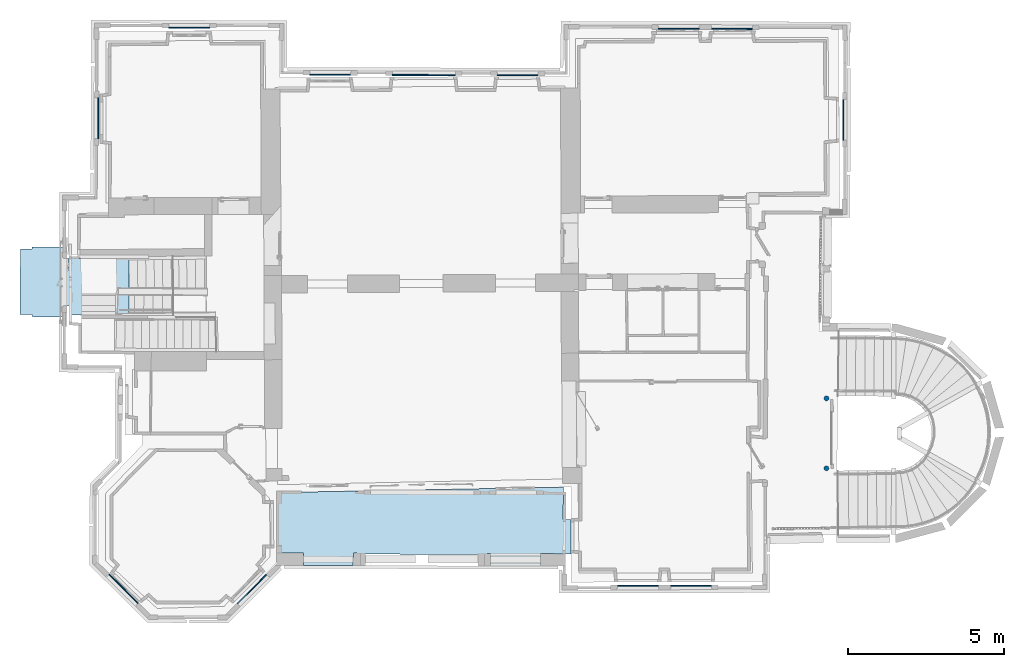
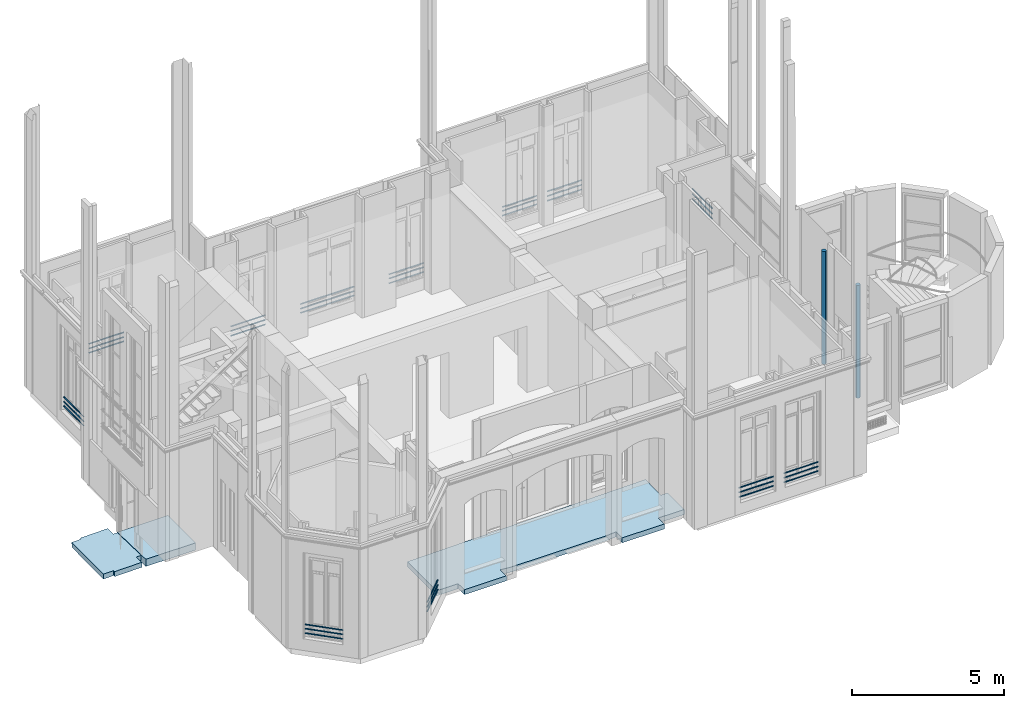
# One storey, part 1 of 97: 36 beams, 3 slabs, 2 columns.
"""IFC2X3 building model written with IfcOpenShell, lengths in centimetres."""

from ifc_helpers import new_model, entity, si_unit, converted_unit, direction, frame, origin, origin_with_axes, origin_2d_with_axis, place, context, subcontext, project, spatial, polyline, circle, outline, extrude, source, transform, mapped, material, layer, layer_set, layer_usage, type_object, element, save


model = new_model("IFC2X3")

# Units and contexts
model_context = context("Model", 3, precision=0.0001, world=origin(), true_north=direction((0.225632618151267, 0.974212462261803, 0.0)))
body_context = subcontext(model_context, "Body", "Model", "MODEL_VIEW")
ifc_project = project(units=[si_unit("LENGTHUNIT", "METRE", prefix="CENTI"), si_unit("AREAUNIT", "SQUARE_METRE", prefix="CENTI"), si_unit("VOLUMEUNIT", "CUBIC_METRE", prefix="CENTI"), converted_unit("PLANEANGLEUNIT", "DEGREE", entity("IfcRatioMeasure", 0.0174532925), si_unit("PLANEANGLEUNIT", "RADIAN"), dimensions=[0, 0, 0, 0, 0, 0, 0])], contexts=[model_context])

# Site, building, storey
site_placement = place(None, origin_with_axes())
site = spatial("IfcSite", under=ifc_project, at=site_placement, Name="Default Site", CompositionType="ELEMENT")
building_placement = place(site_placement, origin_with_axes())
building = spatial("IfcBuilding", under=site, at=building_placement, Name="Default Building", CompositionType="ELEMENT")
storey_placement = place(building_placement, origin_with_axes())
storey = spatial("IfcBuildingStorey", under=building, at=storey_placement, Name="Rez-de-chaussée", CompositionType="ELEMENT", Elevation=0.0)

# Columns
ifc_material_1 = material(Name="Aluminium mat")
column_type = type_object("IfcColumnType", Name="RND 160", PredefinedType="USERDEFINED", material=ifc_material_1)
shared_shape_1 = source(origin_with_axes(), body_context, "Body", "SweptSolid", [
    extrude(circle(Radius=8.0, at=origin_2d_with_axis()), origin_with_axes(), (0.0, 0.0, 1.0), 100.0),
])
for number, where, z_axis, x_axis, name in (
    (1, (1084.38223183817, -660.503939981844, 0.0), (0.0, 0.0, 1.0), (1.0, 0.0, 0.0), "Poteau Acier 705440"),
    (2, (1084.89941999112, -436.680991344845, 0.0), (0.0, 0.0, 1.0), (1.0, 0.0, 0.0), "Poteau Acier 705443"),
):
    element("IfcColumn", number, at=place(storey_placement, frame(where, z_axis=z_axis, x_axis=x_axis)), inside=storey, type_object=column_type, material=ifc_material_1, Name=name, ObjectType="column", context=body_context, shape_type="MappedRepresentation", body=[
        mapped(shared_shape_1, transform((0.0, 0.0, 0.0), x_axis=(1.0, 0.0, 0.0), y_axis=(0.0, 1.0, 0.0), z_axis=(0.0, 0.0, 1.0), scale=1.0, scale2=1.0, scale3=4.52795358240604, uniform=False)),
    ])

# Beams
beam_type = type_object("IfcBeamType", Name="RND 35", PredefinedType="NOTDEFINED", material=ifc_material_1)
shared_shape_2 = source(origin_with_axes(), body_context, "Body", "SweptSolid", [
    extrude(circle(Radius=1.75, at=origin_2d_with_axis()), origin_with_axes(), (0.0, 0.0, 1.0), 100.0),
])
beam_1_placement = place(storey_placement, frame((1138.22197172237, 390.217607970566, 100.795358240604), z_axis=(-6.12323399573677e-17, -1.0, 0.0), x_axis=(1.0, -6.12323399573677e-17, -2.44929359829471e-16)))
element("IfcBeam", 3, at=beam_1_placement, inside=storey, type_object=beam_type, material=ifc_material_1, Name="Poutre en Acier 1550562", ObjectType="beam", context=body_context, shape_type="MappedRepresentation", body=[
    mapped(shared_shape_2, transform((0.0, 0.0, 0.0), x_axis=(1.0, 0.0, 0.0), y_axis=(0.0, 1.0, 0.0), z_axis=(0.0, -2.1091800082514e-48, -1.0), scale=1.0, scale2=1.0, scale3=1.2976185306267, uniform=False)),
])
beam_2_placement = place(storey_placement, frame((1138.15722398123, 390.217824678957, 79.795358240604), z_axis=(-0.000498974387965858, -0.999999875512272, 0.0), x_axis=(0.999999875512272, -0.000498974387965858, -2.44929359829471e-16)))
element("IfcBeam", 4, at=beam_2_placement, inside=storey, type_object=beam_type, material=ifc_material_1, Name="Poutre en Acier 1550687", ObjectType="beam", context=body_context, shape_type="MappedRepresentation", body=[
    mapped(shared_shape_2, transform((0.0, -1.11022302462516e-14, 0.0), x_axis=(1.0, 4.93038065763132e-32, 0.0), y_axis=(0.0, 1.0, 0.0), z_axis=(8.35533573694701e-20, 1.85525722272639e-35, -1.0), scale=1.0, scale2=1.0, scale3=1.29761652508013, uniform=False)),
])
beam_3_placement = place(storey_placement, frame((-1117.57159173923, -1090.93596104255, 59.795358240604), z_axis=(0.708665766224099, -0.705544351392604, -2.46519032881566e-32), x_axis=(0.705544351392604, 0.708665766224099, -2.44929359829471e-16)))
element("IfcBeam", 5, at=beam_3_placement, inside=storey, type_object=beam_type, material=ifc_material_1, Name="Poutre en Acier 1660656", ObjectType="beam", context=body_context, shape_type="MappedRepresentation", body=[
    mapped(shared_shape_2, transform((-1.75000000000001, 1.74999999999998, 0.0), x_axis=(1.0, 4.93038065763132e-32, 6.03797489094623e-48), y_axis=(0.0, 1.0, 0.0), z_axis=(-6.03797489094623e-48, 5.72669407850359e-33, -1.0), scale=1.0, scale2=1.0, scale3=1.30259607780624, uniform=False)),
])
beam_4_placement = place(storey_placement, frame((-1117.57111937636, -1090.93643132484, 77.795358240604), z_axis=(0.708665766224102, -0.705544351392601, 2.46519032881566e-32), x_axis=(0.705544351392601, 0.708665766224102, -2.44929359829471e-16)))
element("IfcBeam", 6, at=beam_4_placement, inside=storey, type_object=beam_type, material=ifc_material_1, Name="Poutre en Acier 1660529", ObjectType="beam", context=body_context, shape_type="MappedRepresentation", body=[
    mapped(shared_shape_2, transform((-1.74999999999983, 1.74999999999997, 8.88178419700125e-14), x_axis=(1.0, 4.93038065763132e-32, -6.03797489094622e-48), y_axis=(0.0, 1.0, 0.0), z_axis=(6.03797489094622e-48, 1.31983214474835e-32, -1.0), scale=1.0, scale2=1.0, scale3=1.3026027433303, uniform=False)),
])
beam_5_placement = place(storey_placement, frame((-801.645183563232, -1092.12837219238, 63.295358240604), z_axis=(-0.708650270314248, -0.705559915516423, 0.0), x_axis=(0.705559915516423, -0.708650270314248, -2.44929359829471e-16)))
element("IfcBeam", 7, at=beam_5_placement, inside=storey, type_object=beam_type, material=ifc_material_1, Name="Poutre en Acier 1661839", ObjectType="beam", context=body_context, shape_type="MappedRepresentation", body=[
    mapped(shared_shape_2, transform((1.75000000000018, -1.75, 0.0), x_axis=(1.0, 0.0, 0.0), y_axis=(0.0, 1.0, 0.0), z_axis=(0.0, 0.0, -1.0), scale=1.0, scale2=1.0, scale3=1.30308057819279, uniform=False)),
])
beam_6_placement = place(storey_placement, frame((-801.645171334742, -1092.12838447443, 100.795358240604), z_axis=(-0.70865017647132, -0.705560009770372, 0.0), x_axis=(0.705560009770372, -0.70865017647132, -2.44929359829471e-16)))
element("IfcBeam", 8, at=beam_6_placement, inside=storey, type_object=beam_type, material=ifc_material_1, Name="Poutre en Acier 1661667", ObjectType="beam", context=body_context, shape_type="MappedRepresentation", body=[
    mapped(shared_shape_2, transform((1.74999999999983, -1.74999999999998, 0.0), x_axis=(1.0, 0.0, 0.0), y_axis=(0.0, 1.0, 0.0), z_axis=(0.0, 0.0, -1.0), scale=1.0, scale2=1.0, scale3=1.30308057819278, uniform=False)),
])
beam_7_placement = place(storey_placement, frame((-1117.57167238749, -1090.93604204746, 94.795358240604), z_axis=(0.70866514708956, -0.705544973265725, 0.0), x_axis=(0.705544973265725, 0.70866514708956, -2.44929359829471e-16)))
element("IfcBeam", 9, at=beam_7_placement, inside=storey, type_object=beam_type, material=ifc_material_1, Name="Poutre en Acier 1660463", ObjectType="beam", context=body_context, shape_type="MappedRepresentation", body=[
    mapped(shared_shape_2, transform((-1.74999999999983, 1.75, -1.77635683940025e-13), x_axis=(1.0, 0.0, 0.0), y_axis=(0.0, 1.0, 0.0), z_axis=(0.0, 0.0, -1.0), scale=1.0, scale2=1.0, scale3=1.30259607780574, uniform=False)),
])
beam_8_placement = place(storey_placement, frame((-1244.78726796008, 395.052051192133, 95.3575825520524), z_axis=(-0.00541552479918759, -0.999985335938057, 0.0), x_axis=(0.999985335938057, -0.00541552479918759, 0.0)))
element("IfcBeam", 10, at=beam_8_placement, inside=storey, type_object=beam_type, material=ifc_material_1, Name="Poutre en Acier 1659932", ObjectType="beam", context=body_context, shape_type="MappedRepresentation", body=[
    mapped(shared_shape_2, transform((-1.74999999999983, 1.75000000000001, 0.0), x_axis=(1.0, 0.0, 8.67361737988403e-19), y_axis=(0.0, 1.0, 0.0), z_axis=(0.0, 0.0, -1.0), scale=1.0, scale2=1.0, scale3=1.30460216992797, uniform=False)),
])
beam_9_placement = place(storey_placement, frame((-889.916319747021, 748.403975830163, 60.5079237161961), z_axis=(0.999999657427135, -0.000827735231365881, 0.0), x_axis=(0.000827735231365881, 0.999999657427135, 0.0)))
element("IfcBeam", 11, at=beam_9_placement, inside=storey, type_object=beam_type, material=ifc_material_1, Name="Poutre en Acier 1659367", ObjectType="beam", context=body_context, shape_type="MappedRepresentation", body=[
    mapped(shared_shape_2, transform((1.75000000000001, -1.75, 0.0), x_axis=(1.0, 0.0, 0.0), y_axis=(0.0, 1.0, 0.0), z_axis=(0.0, 0.0, -1.0), scale=1.0, scale2=1.0, scale3=1.30022671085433, uniform=False)),
])
beam_10_placement = place(storey_placement, frame((-1244.78726796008, 395.052051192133, 62.7689149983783), z_axis=(-0.0054155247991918, -0.999985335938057, 0.0), x_axis=(0.999985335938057, -0.0054155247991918, 0.0)))
element("IfcBeam", 12, at=beam_10_placement, inside=storey, type_object=beam_type, material=ifc_material_1, Name="Poutre en Acier 1660054", ObjectType="beam", context=body_context, shape_type="MappedRepresentation", body=[
    mapped(shared_shape_2, transform((-1.75000000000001, -1.74999999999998, 4.44089209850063e-14), x_axis=(1.0, 0.0, 0.0), y_axis=(0.0, 1.0, 0.0), z_axis=(6.64847689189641e-19, 0.0, -1.0), scale=1.0, scale2=1.0, scale3=1.30460216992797, uniform=False)),
])
beam_11_placement = place(storey_placement, frame((-1244.78726796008, 395.052051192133, 76.1102931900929), z_axis=(-0.00541552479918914, -0.999985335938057, 0.0), x_axis=(0.999985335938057, -0.00541552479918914, 0.0)))
element("IfcBeam", 13, at=beam_11_placement, inside=storey, type_object=beam_type, material=ifc_material_1, Name="Poutre en Acier 1659993", ObjectType="beam", context=body_context, shape_type="MappedRepresentation", body=[
    mapped(shared_shape_2, transform((-1.75000000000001, 1.75000000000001, 0.0), x_axis=(1.0, 0.0, 0.0), y_axis=(0.0, 1.0, 0.0), z_axis=(6.64847689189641e-19, 0.0, -1.0), scale=1.0, scale2=1.0, scale3=1.30460216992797, uniform=False)),
])
beam_12_placement = place(storey_placement, frame((586.668491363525, -1034.31663513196, 60.7659632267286), z_axis=(-0.999998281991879, -0.00185364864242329, 0.0), x_axis=(0.00185364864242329, -0.999998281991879, 0.0)))
element("IfcBeam", 14, at=beam_12_placement, inside=storey, type_object=beam_type, material=ifc_material_1, Name="Poutre en Acier 1664203", ObjectType="beam", context=body_context, shape_type="MappedRepresentation", body=[
    mapped(shared_shape_2, transform((1.74999999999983, -1.75, 0.0), x_axis=(1.0, 0.0, 0.0), y_axis=(0.0, 1.0, 0.0), z_axis=(0.0, 0.0, -1.0), scale=1.0, scale2=1.0, scale3=1.29922881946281, uniform=False)),
])
beam_13_placement = place(storey_placement, frame((586.668491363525, -1034.31663513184, 79.2279716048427), z_axis=(-0.999998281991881, -0.00185364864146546, 0.0), x_axis=(0.00185364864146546, -0.999998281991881, -2.44929359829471e-16)))
element("IfcBeam", 15, at=beam_13_placement, inside=storey, type_object=beam_type, material=ifc_material_1, Name="Poutre en Acier 1664082", ObjectType="beam", context=body_context, shape_type="MappedRepresentation", body=[
    mapped(shared_shape_2, transform((1.75000000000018, -1.75, 8.88178419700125e-14), x_axis=(1.0, 0.0, 0.0), y_axis=(0.0, 1.0, 0.0), z_axis=(-3.33798683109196e-19, 0.0, -1.0), scale=1.0, scale2=1.0, scale3=1.29922881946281, uniform=False)),
])
beam_14_placement = place(storey_placement, frame((586.668491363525, -1034.31663513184, 97.0262320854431), z_axis=(-0.999998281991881, -0.0018536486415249, 0.0), x_axis=(0.0018536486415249, -0.999998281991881, 0.0)))
element("IfcBeam", 16, at=beam_14_placement, inside=storey, type_object=beam_type, material=ifc_material_1, Name="Poutre en Acier 1664019", ObjectType="beam", context=body_context, shape_type="MappedRepresentation", body=[
    mapped(shared_shape_2, transform((1.75000000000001, -1.75, -8.88178419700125e-14), x_axis=(1.0, 0.0, 0.0), y_axis=(0.0, 1.0, 0.0), z_axis=(0.0, 0.0, -1.0), scale=1.0, scale2=1.0, scale3=1.29922881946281, uniform=False)),
])
beam_15_placement = place(storey_placement, frame((416.17356223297, -1034.63257651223, 98.795358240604), z_axis=(-0.999998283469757, -0.00185285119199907, 0.0), x_axis=(0.00185285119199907, -0.999998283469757, 0.0)))
element("IfcBeam", 17, at=beam_15_placement, inside=storey, type_object=beam_type, material=ifc_material_1, Name="Poutre en Acier 1663350", ObjectType="beam", context=body_context, shape_type="MappedRepresentation", body=[
    mapped(shared_shape_2, transform((1.74999999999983, -1.75000000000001, 0.0), x_axis=(1.0, 0.0, 0.0), y_axis=(0.0, 1.0, 0.0), z_axis=(0.0, 0.0, -1.0), scale=1.0, scale2=1.0, scale3=1.30420914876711, uniform=False)),
])
beam_16_placement = place(storey_placement, frame((-801.645183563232, -1092.12837219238, 77.795358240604), z_axis=(-0.708650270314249, -0.705559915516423, 0.0), x_axis=(0.705559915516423, -0.708650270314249, -2.44929359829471e-16)))
element("IfcBeam", 18, at=beam_16_placement, inside=storey, type_object=beam_type, material=ifc_material_1, Name="Poutre en Acier 1661907", ObjectType="beam", context=body_context, shape_type="MappedRepresentation", body=[
    mapped(shared_shape_2, transform((1.7500000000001, 1.74999999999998, 0.0), x_axis=(1.0, 0.0, 0.0), y_axis=(0.0, 1.0, 0.0), z_axis=(0.0, -1.89181725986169e-32, -1.0), scale=1.0, scale2=1.0, scale3=1.30308057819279, uniform=False)),
])
beam_17_placement = place(storey_placement, frame((416.173553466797, -1034.63268280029, 61.1172560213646), z_axis=(-0.999998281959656, -0.00185366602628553, 0.0), x_axis=(0.00185366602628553, -0.999998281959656, 0.0)))
element("IfcBeam", 19, at=beam_17_placement, inside=storey, type_object=beam_type, material=ifc_material_1, Name="Poutre en Acier 1663476", ObjectType="beam", context=body_context, shape_type="MappedRepresentation", body=[
    mapped(shared_shape_2, transform((1.75000000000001, -1.75000000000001, 8.88178419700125e-14), x_axis=(1.0, 0.0, 0.0), y_axis=(0.0, 1.0, 0.0), z_axis=(0.0, 0.0, -1.0), scale=1.0, scale2=1.0, scale3=1.30420923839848, uniform=False)),
])
beam_18_placement = place(storey_placement, frame((416.172293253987, -1034.63257886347, 80.0006432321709), z_axis=(-0.999998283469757, -0.00185285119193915, 0.0), x_axis=(0.00185285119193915, -0.999998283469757, 0.0)))
element("IfcBeam", 20, at=beam_18_placement, inside=storey, type_object=beam_type, material=ifc_material_1, Name="Poutre en Acier 1663413", ObjectType="beam", context=body_context, shape_type="MappedRepresentation", body=[
    mapped(shared_shape_2, transform((1.74999999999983, -1.75000000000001, 8.88178419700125e-14), x_axis=(1.0, 0.0, 0.0), y_axis=(0.0, 1.0, 0.0), z_axis=(0.0, 0.0, -1.0), scale=1.0, scale2=1.0, scale3=1.30422183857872, uniform=False)),
])
beam_19_placement = place(storey_placement, frame((676.920252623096, 744.526733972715, 64.6319061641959), z_axis=(0.999996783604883, -0.00253629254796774, 0.0), x_axis=(0.00253629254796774, 0.999996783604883, -2.44929359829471e-16)))
element("IfcBeam", 21, at=beam_19_placement, inside=storey, type_object=beam_type, material=ifc_material_1, Name="Poutre en Acier 1553046", ObjectType="beam", context=body_context, shape_type="MappedRepresentation", body=[
    mapped(shared_shape_2, transform((1.74999999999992, -1.75, -8.88178419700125e-14), x_axis=(1.0, 0.0, 0.0), y_axis=(0.0, 1.0, 0.0), z_axis=(3.34041388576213e-19, 0.0, -1.0), scale=1.0, scale2=1.0, scale3=1.29828483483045, uniform=False)),
])
beam_20_placement = place(storey_placement, frame((676.920252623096, 744.526733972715, 83.5544196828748), z_axis=(0.999996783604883, -0.00253629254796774, 0.0), x_axis=(0.00253629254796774, 0.999996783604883, 0.0)))
element("IfcBeam", 22, at=beam_20_placement, inside=storey, type_object=beam_type, material=ifc_material_1, Name="Poutre en Acier 1552977", ObjectType="beam", context=body_context, shape_type="MappedRepresentation", body=[
    mapped(shared_shape_2, transform((1.74999999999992, -1.75000000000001, -8.88178419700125e-14), x_axis=(1.0, 0.0, 0.0), y_axis=(0.0, 1.0, 0.0), z_axis=(3.34041388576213e-19, 0.0, -1.0), scale=1.0, scale2=1.0, scale3=1.29828483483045, uniform=False)),
])
beam_21_placement = place(storey_placement, frame((160.882440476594, 595.787311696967, 82.795358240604), z_axis=(0.999997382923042, -0.00228782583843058, 0.0), x_axis=(0.00228782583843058, 0.999997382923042, 0.0)))
element("IfcBeam", 23, at=beam_21_placement, inside=storey, type_object=beam_type, material=ifc_material_1, Name="Poutre en Acier 1656398", ObjectType="beam", context=body_context, shape_type="MappedRepresentation", body=[
    mapped(shared_shape_2, transform((1.75000000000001, -1.75, 0.0), x_axis=(1.0, 0.0, 0.0), y_axis=(0.0, 1.0, 0.0), z_axis=(0.0, 0.0, -1.0), scale=1.0, scale2=1.0, scale3=1.29534020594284, uniform=False)),
])
beam_22_placement = place(storey_placement, frame((160.882440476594, 595.787311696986, 99.795358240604), z_axis=(0.999997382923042, -0.00228782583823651, 0.0), x_axis=(0.00228782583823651, 0.999997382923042, 0.0)))
element("IfcBeam", 24, at=beam_22_placement, inside=storey, type_object=beam_type, material=ifc_material_1, Name="Poutre en Acier 1656274", ObjectType="beam", context=body_context, shape_type="MappedRepresentation", body=[
    mapped(shared_shape_2, transform((1.7500000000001, -1.75, -2.22044604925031e-14), x_axis=(1.0, 0.0, 0.0), y_axis=(0.0, 1.0, 0.0), z_axis=(-3.34800747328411e-19, 0.0, -1.0), scale=1.0, scale2=1.0, scale3=1.29534020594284, uniform=False)),
])
beam_23_placement = place(storey_placement, frame((676.920252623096, 744.526733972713, 99.0805846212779), z_axis=(0.999996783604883, -0.00253629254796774, 0.0), x_axis=(0.00253629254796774, 0.999996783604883, -2.44929359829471e-16)))
element("IfcBeam", 25, at=beam_23_placement, inside=storey, type_object=beam_type, material=ifc_material_1, Name="Poutre en Acier 1552908", ObjectType="beam", context=body_context, shape_type="MappedRepresentation", body=[
    mapped(shared_shape_2, transform((1.75000000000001, -1.75, -8.88178419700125e-14), x_axis=(1.0, 0.0, 0.0), y_axis=(0.0, 1.0, 0.0), z_axis=(0.0, 0.0, -1.0), scale=1.0, scale2=1.0, scale3=1.29828483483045, uniform=False)),
])
beam_24_placement = place(storey_placement, frame((847.661171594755, 744.093683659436, 100.795358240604), z_axis=(0.999996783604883, -0.00253629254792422, -9.62964972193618e-35), x_axis=(0.00253629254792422, 0.999996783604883, -2.44929359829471e-16)))
element("IfcBeam", 26, at=beam_24_placement, inside=storey, type_object=beam_type, material=ifc_material_1, Name="Poutre en Acier 1551991", ObjectType="beam", context=body_context, shape_type="MappedRepresentation", body=[
    mapped(shared_shape_2, transform((1.75000000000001, -2.22044604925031e-14, -1.77635683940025e-13), x_axis=(1.0, 0.0, 4.71716788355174e-50), y_axis=(0.0, 1.0, 0.0), z_axis=(-2.35858394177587e-50, -5.17709240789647e-35, -1.0), scale=1.0, scale2=1.0, scale3=1.30071147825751, uniform=False)),
])
beam_25_placement = place(storey_placement, frame((1138.22197172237, 390.217607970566, 59.795358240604), z_axis=(-6.12323399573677e-17, -1.0, 0.0), x_axis=(1.0, -6.12323399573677e-17, -2.44929359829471e-16)))
element("IfcBeam", 27, at=beam_25_placement, inside=storey, type_object=beam_type, material=ifc_material_1, Name="Poutre en Acier 1550751", ObjectType="beam", context=body_context, shape_type="MappedRepresentation", body=[
    mapped(shared_shape_2, transform((0.0, 0.0, 0.0), x_axis=(1.0, 0.0, 0.0), y_axis=(0.0, 1.0, 0.0), z_axis=(0.0, -2.1091800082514e-48, -1.0), scale=1.0, scale2=1.0, scale3=1.2976185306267, uniform=False)),
])
beam_26_placement = place(storey_placement, frame((847.661171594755, 744.093683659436, 63.2012170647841), z_axis=(0.999996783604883, -0.00253629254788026, 0.0), x_axis=(0.00253629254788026, 0.999996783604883, 0.0)))
element("IfcBeam", 28, at=beam_26_placement, inside=storey, type_object=beam_type, material=ifc_material_1, Name="Poutre en Acier 1552575", ObjectType="beam", context=body_context, shape_type="MappedRepresentation", body=[
    mapped(shared_shape_2, transform((1.75000000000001, -1.11022302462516e-14, 0.0), x_axis=(1.0, 0.0, 0.0), y_axis=(0.0, 1.0, 0.0), z_axis=(-3.33418191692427e-19, 0.0, -1.0), scale=1.0, scale2=1.0, scale3=1.30071147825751, uniform=False)),
])
beam_27_placement = place(storey_placement, frame((847.661171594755, 744.093683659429, 81.6385379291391), z_axis=(0.999996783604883, -0.00253629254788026, 0.0), x_axis=(0.00253629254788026, 0.999996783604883, 0.0)))
element("IfcBeam", 29, at=beam_27_placement, inside=storey, type_object=beam_type, material=ifc_material_1, Name="Poutre en Acier 1552506", ObjectType="beam", context=body_context, shape_type="MappedRepresentation", body=[
    mapped(shared_shape_2, transform((1.75000000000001, 0.0, 0.0), x_axis=(1.0, 0.0, 0.0), y_axis=(0.0, 1.0, 0.0), z_axis=(-3.33418191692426e-19, 0.0, -1.0), scale=1.0, scale2=1.0, scale3=1.30071147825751, uniform=False)),
])
beam_28_placement = place(storey_placement, frame((-438.835914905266, 597.560735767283, 61.9769926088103), z_axis=(0.999996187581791, -0.00276130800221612, 0.0), x_axis=(0.00276130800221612, 0.999996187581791, -2.44929359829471e-16)))
element("IfcBeam", 30, at=beam_28_placement, inside=storey, type_object=beam_type, material=ifc_material_1, Name="Poutre en Acier 1658545", ObjectType="beam", context=body_context, shape_type="MappedRepresentation", body=[
    mapped(shared_shape_2, transform((1.7500000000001, -1.75000000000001, 0.0), x_axis=(1.0, 4.93038065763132e-32, 0.0), y_axis=(0.0, 1.0, 0.0), z_axis=(0.0, 0.0, -1.0), scale=1.0, scale2=1.0, scale3=1.30302084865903, uniform=False)),
])
beam_29_placement = place(storey_placement, frame((-438.835914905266, 597.560735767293, 76.914313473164), z_axis=(0.999996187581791, -0.00276130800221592, 0.0), x_axis=(0.00276130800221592, 0.999996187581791, 0.0)))
element("IfcBeam", 31, at=beam_29_placement, inside=storey, type_object=beam_type, material=ifc_material_1, Name="Poutre en Acier 1658480", ObjectType="beam", context=body_context, shape_type="MappedRepresentation", body=[
    mapped(shared_shape_2, transform((1.7500000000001, 1.74999999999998, 0.0), x_axis=(1.0, 0.0, 0.0), y_axis=(0.0, 1.0, 0.0), z_axis=(0.0, 0.0, -1.0), scale=1.0, scale2=1.0, scale3=1.30302084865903, uniform=False)),
])
beam_30_placement = place(storey_placement, frame((-889.916319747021, 748.403975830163, 77.5867051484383), z_axis=(0.999999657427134, -0.00082773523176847, 0.0), x_axis=(0.00082773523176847, 0.999999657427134, 0.0)))
element("IfcBeam", 32, at=beam_30_placement, inside=storey, type_object=beam_type, material=ifc_material_1, Name="Poutre en Acier 1659302", ObjectType="beam", context=body_context, shape_type="MappedRepresentation", body=[
    mapped(shared_shape_2, transform((1.75000000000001, -1.74999999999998, 1.77635683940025e-13), x_axis=(1.0, 0.0, 0.0), y_axis=(0.0, 1.0, 0.0), z_axis=(1.6677125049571e-19, 0.0, -1.0), scale=1.0, scale2=1.0, scale3=1.30022671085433, uniform=False)),
])
beam_31_placement = place(storey_placement, frame((-889.916319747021, 748.403975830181, 96.6062571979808), z_axis=(0.999999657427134, -0.000827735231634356, 0.0), x_axis=(0.000827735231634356, 0.999999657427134, 0.0)))
element("IfcBeam", 33, at=beam_31_placement, inside=storey, type_object=beam_type, material=ifc_material_1, Name="Poutre en Acier 1659177", ObjectType="beam", context=body_context, shape_type="MappedRepresentation", body=[
    mapped(shared_shape_2, transform((1.75000000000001, -1.75000000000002, 0.0), x_axis=(1.0, 0.0, 0.0), y_axis=(0.0, 1.0, 0.0), z_axis=(-1.6677125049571e-19, 0.0, -1.0), scale=1.0, scale2=1.0, scale3=1.30022671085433, uniform=False)),
])
beam_32_placement = place(storey_placement, frame((-438.835914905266, 597.560735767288, 95.8368269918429), z_axis=(0.999996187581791, -0.00276130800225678, 0.0), x_axis=(0.00276130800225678, 0.999996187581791, 0.0)))
element("IfcBeam", 34, at=beam_32_placement, inside=storey, type_object=beam_type, material=ifc_material_1, Name="Poutre en Acier 1658354", ObjectType="beam", context=body_context, shape_type="MappedRepresentation", body=[
    mapped(shared_shape_2, transform((1.7500000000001, 1.74999999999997, -8.88178419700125e-14), x_axis=(1.0, 0.0, 0.0), y_axis=(0.0, 1.0, 0.0), z_axis=(-3.32827267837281e-19, 0.0, -1.0), scale=1.0, scale2=1.0, scale3=1.30302084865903, uniform=False)),
])
beam_33_placement = place(storey_placement, frame((-102.847492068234, 596.390681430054, 93.795358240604), z_axis=(0.999997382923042, -0.00228782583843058, 0.0), x_axis=(0.00228782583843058, 0.999997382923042, 0.0)))
element("IfcBeam", 35, at=beam_33_placement, inside=storey, type_object=beam_type, material=ifc_material_1, Name="Poutre en Acier 1657460", ObjectType="beam", context=body_context, shape_type="MappedRepresentation", body=[
    mapped(shared_shape_2, transform((1.75000000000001, 1.75, -2.22044604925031e-14), x_axis=(1.0, 0.0, 0.0), y_axis=(0.0, 1.0, 0.0), z_axis=(0.0, 0.0, -1.0), scale=1.0, scale2=1.0, scale3=2.01818350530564, uniform=False)),
])
beam_34_placement = place(storey_placement, frame((160.882440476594, 595.787311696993, 63.795358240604), z_axis=(0.999997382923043, -0.00228782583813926, 0.0), x_axis=(0.00228782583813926, 0.999997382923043, 0.0)))
element("IfcBeam", 36, at=beam_34_placement, inside=storey, type_object=beam_type, material=ifc_material_1, Name="Poutre en Acier 1656522", ObjectType="beam", context=body_context, shape_type="MappedRepresentation", body=[
    mapped(shared_shape_2, transform((1.74999999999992, -1.75000000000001, -2.22044604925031e-14), x_axis=(1.0, 0.0, 0.0), y_axis=(0.0, 1.0, 0.0), z_axis=(3.34800747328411e-19, 0.0, -1.0), scale=1.0, scale2=1.0, scale3=1.29534020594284, uniform=False)),
])
beam_35_placement = place(storey_placement, frame((-102.847492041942, 596.39393361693, 60.0222411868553), z_axis=(0.999997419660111, -0.00227171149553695, 0.0), x_axis=(0.00227171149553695, 0.999997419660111, 0.0)))
element("IfcBeam", 37, at=beam_35_placement, inside=storey, type_object=beam_type, material=ifc_material_1, Name="Poutre en Acier 1657596", ObjectType="beam", context=body_context, shape_type="MappedRepresentation", body=[
    mapped(shared_shape_2, transform((1.75000000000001, 0.0, 0.0), x_axis=(1.0, 0.0, 0.0), y_axis=(0.0, 1.0, 0.0), z_axis=(0.0, 0.0, -1.0), scale=1.0, scale2=1.0, scale3=2.01818343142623, uniform=False)),
])
beam_36_placement = place(storey_placement, frame((-102.847492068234, 596.390681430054, 75.2539840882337), z_axis=(0.999997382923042, -0.00228782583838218, 0.0), x_axis=(0.00228782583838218, 0.999997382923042, 0.0)))
element("IfcBeam", 38, at=beam_36_placement, inside=storey, type_object=beam_type, material=ifc_material_1, Name="Poutre en Acier 1657528", ObjectType="beam", context=body_context, shape_type="MappedRepresentation", body=[
    mapped(shared_shape_2, transform((1.7500000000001, 1.74999999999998, 0.0), x_axis=(1.0, 0.0, 0.0), y_axis=(0.0, 1.0, 0.0), z_axis=(-4.29773474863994e-19, 0.0, -1.0), scale=1.0, scale2=1.0, scale3=2.01818350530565, uniform=False)),
])

# Slabs
ifc_material_2 = material(Name="Carreaux en céramique")
ifc_layer_1 = layer(ifc_material_2, 1.5)
ifc_material_3 = material(Name="Chape en béton léger")
ifc_layer_2 = layer(ifc_material_3, 4.0)
ifc_material_4 = material(Name="Béton armé")
ifc_layer_3 = layer(ifc_material_4, 13.0)
ifc_material_5 = material(Name="Enduit de chaux et plâtre")
ifc_layer_4 = layer(ifc_material_5, 1.5)
ifc_layer_set_1 = layer_set([ifc_layer_1, ifc_layer_2, ifc_layer_3, ifc_layer_4], Name="Dalle en béton armé")
ifc_layer_usage_1 = layer_usage(ifc_layer_set_1, "AXIS3", "POSITIVE", 0.0)
slab_type_1 = type_object("IfcSlabType", Name="Dalle en béton armé 200", PredefinedType="NOTDEFINED", material=ifc_layer_set_1)
slab_1_placement = place(storey_placement, frame((-100.003914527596, -853.905646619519, -20.0), z_axis=(0.0, 0.0, 1.0), x_axis=(1.0, 0.0, 0.0)))
element("IfcSlab", 39, at=slab_1_placement, inside=storey, type_object=slab_type_1, material=ifc_layer_usage_1, Name="Dalle 396734", PredefinedType="NOTDEFINED", context=body_context, shape_type="SweptSolid", body=[
    extrude(outline(polyline([(-571.316920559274, -77.2116948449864), (-489.487541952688, -77.2697585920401), (-489.515782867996, -117.069748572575), (-329.920195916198, -117.182992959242), (-329.891955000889, -77.3830029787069), (-290.842988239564, -81.3426867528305), (69.0808725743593, -82.573734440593), (109.290951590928, -79.169882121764), (109.104132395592, -118.969443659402), (268.698001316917, -119.718577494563), (268.884820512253, -79.9190159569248), (367.210713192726, -80.3805578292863), (367.832404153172, 29.4255251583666), (341.737712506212, 29.5732659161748), (342.996922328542, 132.978352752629), (-570.793221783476, 115.97290039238), (-571.316920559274, -77.2116948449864)])), origin_with_axes(), (0.0, 0.0, 1.0), 20.0),
])
ifc_layer_usage_2 = layer_usage(ifc_layer_set_1, "AXIS3", "POSITIVE", 0.0)
slab_2_placement = place(storey_placement, frame((-1338.60767529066, -63.8038358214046, -123.69689574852), z_axis=(-0.0176179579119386, 9.28226926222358e-05, 0.999844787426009), x_axis=(-0.832093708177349, 0.554439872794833, -0.0147135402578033)))
element("IfcSlab", 40, at=slab_2_placement, inside=storey, type_object=slab_type_1, material=ifc_layer_usage_2, Name="Dalle 322633", PredefinedType="NOTDEFINED", context=body_context, shape_type="SweptSolid", body=[
    extrude(outline(polyline([(188.847002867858, -0.944169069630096), (73.3093706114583, 174.448269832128), (41.0422535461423, 153.146842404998), (37.4148531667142, 158.960773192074), (-48.757791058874, 102.227456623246), (-28.8274395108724, 72.3153699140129), (-44.033696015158, 62.583524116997), (42.550172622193, -62.5054070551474), (55.0867255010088, -53.828149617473), (75.2147620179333, -84.3456303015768), (161.930821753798, -26.9156682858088), (158.202447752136, -21.1308963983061), (188.847002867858, -0.944169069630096)])), origin_with_axes(), (0.0, 0.0, 1.0), 20.0),
])
ifc_material_6 = material(Name="Carreaux en céramique")
ifc_layer_5 = layer(ifc_material_6, 1.5)
ifc_material_7 = material(Name="Chape ordinaire")
ifc_layer_6 = layer(ifc_material_7, 4.0)
ifc_material_8 = material(Name="Dalle plane terre-cuite-ciment isolée")
ifc_layer_7 = layer(ifc_material_8, 22.5)
ifc_material_9 = material(Name="Enduit intérieur")
ifc_layer_8 = layer(ifc_material_9, 1.0)
ifc_layer_set_2 = layer_set([ifc_layer_5, ifc_layer_6, ifc_layer_7, ifc_layer_8], Name="Plancher en brique-ciment")
ifc_layer_usage_3 = layer_usage(ifc_layer_set_2, "AXIS3", "POSITIVE", 0.0)
slab_type_2 = type_object("IfcSlabType", Name="Plancher en brique-ciment 290", PredefinedType="NOTDEFINED", material=ifc_layer_set_2)
slab_3_placement = place(storey_placement, frame((-1218.87525246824, -52.3166818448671, -130.715386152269), z_axis=(0.0, 0.0, 1.0), x_axis=(1.0, 0.0, 0.0)))
element("IfcSlab", 41, at=slab_3_placement, inside=storey, type_object=slab_type_2, material=ifc_layer_usage_3, Name="Enveloppe horizontale 14691", PredefinedType="NOTDEFINED", context=body_context, shape_type="SweptSolid", body=[
    extrude(outline(polyline([(71.3715936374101, 64.2351167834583), (70.8838091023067, -118.254955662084), (-117.558220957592, -117.90140722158), (-121.117082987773, 64.1245941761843), (71.3715936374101, 64.2351167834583)])), origin_with_axes(), (0.0, 0.0, 1.0), 29.0),
])

save(model, "model.ifc")
